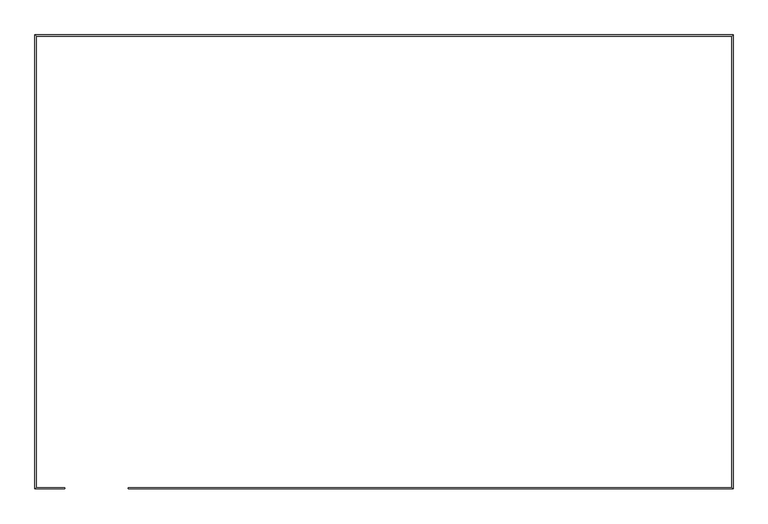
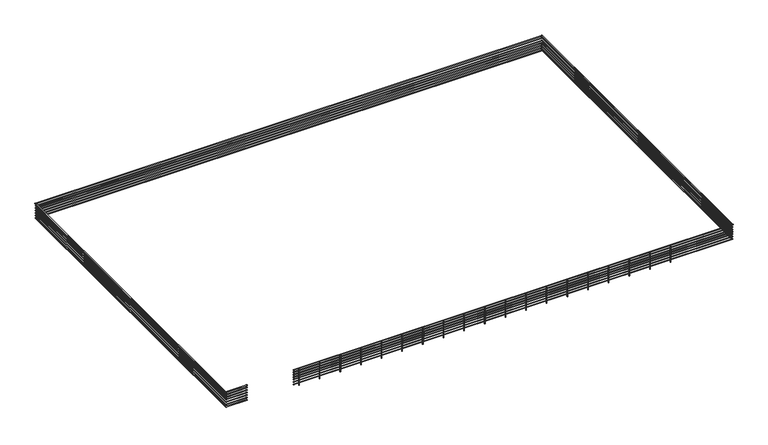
"""IFC4 building model written with IfcOpenShell, lengths in millimetres: railing geometry."""

import ifcopenshell
import ifcopenshell.guid

model = None  # the IFC model being written
_history = None  # IfcOwnerHistory: only IFC2X3 demands one
_inside = {}  # id of a spatial element -> (the spatial element, [elements in it])
_under = {}  # id of a project, library or spatial element -> (it, [spatial elements below it])
_declared = {}  # id of a project -> (the project, [libraries it declares])
_typed = {}  # id of a type object -> (the type object, [elements of that type])
_made_of = {}  # id of a material, layer set ... -> (it, [elements and type objects made of it])


def new_model(schema):
    """Start an empty IFC model of exactly this schema.

    Asked for "IFC4X3", IfcOpenShell would pick the latest addendum, in which some entities
    have other attributes; the version numbers below select the first issue.
    IFC2X3 requires an IfcOwnerHistory on every rooted entity: one is made here for all.
    """
    global model, _history
    if schema == "IFC4X3":
        model = ifcopenshell.file(schema_version=(4, 3, 0, 0))
    else:
        model = ifcopenshell.file(schema=schema)
    _inside.clear()
    _under.clear()
    _declared.clear()
    _typed.clear()
    _made_of.clear()
    _history = None
    if model.schema == "IFC2X3":
        org = make("IfcOrganization", Name="unknown")
        user = make(
            "IfcPersonAndOrganization",
            ThePerson=make("IfcPerson", FamilyName="unknown"),
            TheOrganization=org,
        )
        app = make(
            "IfcApplication",
            ApplicationDeveloper=org,
            Version="unknown",
            ApplicationFullName="unknown",
            ApplicationIdentifier="unknown",
        )
        _history = make(
            "IfcOwnerHistory",
            OwningUser=user,
            OwningApplication=app,
            ChangeAction="ADDED",
            CreationDate=0,
        )
    return model


def make(cls, **values):
    """One entity of the class cls with the attributes given. An attribute that is None is left unset."""
    return model.create_entity(
        cls, **{name: value for name, value in values.items() if value is not None}
    )


def rooted(cls, **values):
    """An entity with a GlobalId (a new one), such as an element, a storey or a relation."""
    return make(cls, GlobalId=ifcopenshell.guid.new(), OwnerHistory=_history, **values)


def si_unit(unit_type, name, prefix=None):
    """IfcSIUnit, for example si_unit("LENGTHUNIT", "METRE", prefix="MILLI")."""
    return make("IfcSIUnit", UnitType=unit_type, Prefix=prefix, Name=name)


def assignment(units):
    """IfcUnitAssignment: the units of a project."""
    return None if units is None else make("IfcUnitAssignment", Units=units)


def point(xyz):
    """IfcCartesianPoint."""
    return None if xyz is None else make("IfcCartesianPoint", Coordinates=xyz)


def direction(xyz):
    """IfcDirection."""
    return None if xyz is None else make("IfcDirection", DirectionRatios=xyz)


def frame(location, z_axis=None, x_axis=None):
    """IfcAxis2Placement3D, a coordinate frame: its origin and axes. An axis left out is left unset."""
    return make(
        "IfcAxis2Placement3D",
        Location=point(location),
        Axis=direction(z_axis),
        RefDirection=direction(x_axis),
    )


def frame_2d(location, x_axis=None):
    """IfcAxis2Placement2D, a coordinate frame in the plane: its origin and x axis."""
    return make(
        "IfcAxis2Placement2D", Location=point(location), RefDirection=direction(x_axis)
    )


def origin():
    """The frame at (0, 0, 0) with its axes left unset."""
    return frame((0.0, 0.0, 0.0))


def place(relative_to, where):
    """IfcLocalPlacement: puts the frame where relative to a parent placement (None: the world)."""
    return make(
        "IfcLocalPlacement", PlacementRelTo=relative_to, RelativePlacement=where
    )


def context(
    kind, dimensions, precision=None, world=None, true_north=None, identifier=None
):
    """IfcGeometricRepresentationContext, for example the 3D "Model" context."""
    return make(
        "IfcGeometricRepresentationContext",
        ContextIdentifier=identifier,
        ContextType=kind,
        CoordinateSpaceDimension=dimensions,
        Precision=precision,
        WorldCoordinateSystem=world,
        TrueNorth=true_north,
    )


def project(units=None, contexts=None):
    """IfcProject with its units and contexts."""
    return rooted(
        "IfcProject",
        Name="project",
        RepresentationContexts=contexts,
        UnitsInContext=assignment(units),
    )


def spatial(cls, under=None, at=None, **own):
    """A site, building, storey or space (cls), placed at a placement, below another one or the project."""
    s = rooted(cls, ObjectPlacement=at, **own)
    if under is not None:
        _under.setdefault(under.id(), (under, []))[1].append(s)
    return s


def circle_curve(where, radius):
    """IfcCircle in the frame where."""
    return make("IfcCircle", Position=where, Radius=radius)


def ellipse_curve(where, semi_axis1, semi_axis2):
    """IfcEllipse in the frame where."""
    return make(
        "IfcEllipse", Position=where, SemiAxis1=semi_axis1, SemiAxis2=semi_axis2
    )


def trimmed(basis, trim1, trim2, sense, master):
    """IfcTrimmedCurve: the piece of a basis curve between two trims."""
    return make(
        "IfcTrimmedCurve",
        BasisCurve=basis,
        Trim1=trim1,
        Trim2=trim2,
        SenseAgreement=sense,
        MasterRepresentation=master,
    )


def segment(curve, same_sense, transition):
    """IfcCompositeCurveSegment."""
    return make(
        "IfcCompositeCurveSegment",
        Transition=transition,
        SameSense=same_sense,
        ParentCurve=curve,
    )


def composite_curve(segments, self_intersect=None):
    """IfcCompositeCurve: segments joined end to end."""
    return make("IfcCompositeCurve", Segments=segments, SelfIntersect=self_intersect)


def outline(outer, holes=None, kind="AREA"):
    """IfcArbitraryClosedProfileDef: a profile drawn as a closed curve; with holes, ...WithVoids."""
    if holes is None:
        return make("IfcArbitraryClosedProfileDef", ProfileType=kind, OuterCurve=outer)
    return make(
        "IfcArbitraryProfileDefWithVoids",
        ProfileType=kind,
        OuterCurve=outer,
        InnerCurves=holes,
    )


def extrude(swept, where, along, depth):
    """IfcExtrudedAreaSolid: the profile swept, set in the frame where, extruded along a direction by depth."""
    return make(
        "IfcExtrudedAreaSolid",
        SweptArea=swept,
        Position=where,
        ExtrudedDirection=direction(along),
        Depth=depth,
    )


def shape(context_of_items, identifier, shape_type, items):
    """IfcShapeRepresentation: the items that make up one representation, for example the "Body"."""
    return make(
        "IfcShapeRepresentation",
        ContextOfItems=context_of_items,
        RepresentationIdentifier=identifier,
        RepresentationType=shape_type,
        Items=items,
    )


def source(mapping_origin, context_of_items, identifier, shape_type, items):
    """IfcRepresentationMap: a shape defined once, which mapped items show again and again."""
    return make(
        "IfcRepresentationMap",
        MappingOrigin=mapping_origin,
        MappedRepresentation=shape(context_of_items, identifier, shape_type, items),
    )


def transform(
    local_origin,
    x_axis=None,
    y_axis=None,
    z_axis=None,
    scale=None,
    scale2=None,
    scale3=None,
    uniform=True,
):
    """IfcCartesianTransformationOperator3D, or its non-uniform kind. x_axis, y_axis, z_axis: its Axis1, 2, 3."""
    if uniform:
        return make(
            "IfcCartesianTransformationOperator3D",
            Axis1=direction(x_axis),
            Axis2=direction(y_axis),
            LocalOrigin=point(local_origin),
            Scale=scale,
            Axis3=direction(z_axis),
        )
    return make(
        "IfcCartesianTransformationOperator3DnonUniform",
        Axis1=direction(x_axis),
        Axis2=direction(y_axis),
        LocalOrigin=point(local_origin),
        Scale=scale,
        Axis3=direction(z_axis),
        Scale2=scale2,
        Scale3=scale3,
    )


def mapped(mapping_source, mapping_target):
    """IfcMappedItem: shows the shape of a source again, moved by a transform."""
    return make(
        "IfcMappedItem", MappingSource=mapping_source, MappingTarget=mapping_target
    )


def made_of(thing, what):
    """Note that an element or type object is made of a material, layer set ...; save() writes the relation."""
    if what is not None:
        _made_of.setdefault(what.id(), (what, []))[1].append(thing)
    return thing


def element(
    cls,
    number,
    at=None,
    inside=None,
    cuts=None,
    type_object=None,
    material=None,
    context=None,
    identifier="Body",
    shape_type=None,
    held_by="IfcProductDefinitionShape",
    body=None,
    shapes=None,
    **own,
):
    """One element of the class cls, such as IfcWall. Its Tag is "e" and its number.

    at: its placement. inside: the storey or other place that contains it. cuts: it is an
    opening in that element (IfcRelVoidsElement). A single representation is given by context,
    identifier, shape_type and body (its items); several are given by shapes. held_by: the class
    of the entity that holds the representations. save() writes the other relations.
    """
    e = rooted(cls, Tag="e%d" % number, ObjectPlacement=at, **own)
    if body is not None:
        shapes = [shape(context, identifier, shape_type, body)]
    if shapes is not None:
        e.Representation = make(held_by, Representations=shapes)
    if inside is not None:
        _inside.setdefault(inside.id(), (inside, []))[1].append(e)
    if cuts is not None:
        rooted(
            "IfcRelVoidsElement", RelatingBuildingElement=cuts, RelatedOpeningElement=e
        )
    if type_object is not None:
        _typed.setdefault(type_object.id(), (type_object, []))[1].append(e)
    return made_of(e, material)


def aggregate(whole, parts):
    """IfcRelAggregates: a whole, such as a stair, and the parts it consists of."""
    return rooted("IfcRelAggregates", RelatingObject=whole, RelatedObjects=parts)


def save(model, path):
    """Write the relations noted so far, then the file.

    IfcRelAggregates (storeys below a building ...), IfcRelContainedInSpatialStructure (elements
    in a storey), IfcRelDefinesByType, IfcRelAssociatesMaterial and IfcRelDeclares: one each for
    every whole, place, type object, material and project.
    """
    for whole, parts in _under.values():
        aggregate(whole, parts)
    for where, things in _inside.values():
        rooted(
            "IfcRelContainedInSpatialStructure",
            RelatedElements=things,
            RelatingStructure=where,
        )
    for kind, things in _typed.values():
        rooted("IfcRelDefinesByType", RelatedObjects=things, RelatingType=kind)
    for what, things in _made_of.values():
        rooted("IfcRelAssociatesMaterial", RelatedObjects=things, RelatingMaterial=what)
    for by, libraries in _declared.values():
        rooted("IfcRelDeclares", RelatingContext=by, RelatedDefinitions=libraries)
    model.write(path)


def plane_surface(at):
    """IfcPlane: the flat surface through the origin of the frame at, square to its z axis."""
    return make("IfcPlane", Position=at)


def cylinder_surface(at, radius):
    """IfcCylindricalSurface: all points at the distance radius from the z axis of the frame at."""
    return make("IfcCylindricalSurface", Position=at, Radius=radius)


def advanced_brep(points, edges, surfaces, faces):
    """IfcAdvancedBrep: a solid bounded by faces that lie on surfaces and meet in shared edges.

    An edge is (start, end): straight between two places in points (the first is 0);
    or (start, end, curve); or (start, end, curve, False) where it runs against its curve.
    A face is (place in surfaces, loops), or (place, loops, False) where it looks against
    its surface's normal. A loop lists edges by number (the first is 1), with a minus sign
    where the edge is run from its end to its start. The first loop is the outer one.
    """
    corners = [point(p) for p in points]
    vertices = [make("IfcVertexPoint", VertexGeometry=c) for c in corners]
    made = []
    for start, end, *more in edges:
        made.append(
            make(
                "IfcEdgeCurve",
                EdgeStart=vertices[start],
                EdgeEnd=vertices[end],
                EdgeGeometry=more[0] if more else make("IfcPolyline", Points=[corners[start], corners[end]]),
                SameSense=more[1] if len(more) > 1 else True,
            )
        )
    hull = []
    for where, loops, *sense in faces:
        bounds = []
        for j, loop in enumerate(loops):
            ring = [make("IfcOrientedEdge", EdgeElement=made[abs(k) - 1], Orientation=k > 0) for k in loop]
            bounds.append(
                make(
                    "IfcFaceOuterBound" if j == 0 else "IfcFaceBound",
                    Bound=make("IfcEdgeLoop", EdgeList=ring),
                    Orientation=True,
                )
            )
        hull.append(make("IfcAdvancedFace", Bounds=bounds, FaceSurface=surfaces[where], SameSense=sense[0] if sense else True))
    return make("IfcAdvancedBrep", Outer=make("IfcClosedShell", CfsFaces=hull))


def railing_b7095c67(model_context):
    return source(origin(), model_context, "Body", "SolidModel", [
        advanced_brep(
        [(-5549.137978, -9104.0840399, 4880.0), (-5549.137978, -9064.0840399, 4880.0), (-6604.137978, -9104.0840399, 4880.0), (-6564.137978, -9064.0840399, 4880.0), (-6604.137978, 6885.9159601, 4880.0), (-6564.137978, 6845.9159601, 4880.0), (17985.862022, 6885.9159601, 4880.0), (17945.862022, 6845.9159601, 4880.0), (17985.862022, -9104.0840399, 4880.0), (17945.862022, -9064.0840399, 4880.0), (-3309.137978, -9104.0840399, 4880.0), (-3309.137978, -9064.0840399, 4880.0)],
        [
            (0, 1, circle_curve(frame((-5549.137978, -9084.0840399, 4880.0), z_axis=(1.0, 0.0, 0.0), x_axis=(0.0, 1.0, 0.0)), 20.0)),
            (1, 0, circle_curve(frame((-5549.137978, -9084.0840399, 4880.0), z_axis=(1.0, 0.0, 0.0), x_axis=(0.0, 1.0, 0.0)), 20.0)),
            (0, 2),
            (2, 3, ellipse_curve(frame((-6584.137978, -9084.0840399, 4880.0), z_axis=(0.7071067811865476, -0.7071067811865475, 0.0), x_axis=(0.7071067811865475, 0.7071067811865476, 0.0)), 28.2842712, 20.0)),
            (3, 1),
            (3, 2, ellipse_curve(frame((-6584.137978, -9084.0840399, 4880.0), z_axis=(0.7071067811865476, -0.7071067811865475, 0.0), x_axis=(0.7071067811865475, 0.7071067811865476, 0.0)), 28.2842712, 20.0)),
            (2, 4),
            (4, 5, ellipse_curve(frame((-6584.137978, 6865.9159601, 4880.0), z_axis=(-0.7071067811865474, -0.7071067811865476, 0.0), x_axis=(0.7071067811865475, -0.7071067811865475, 0.0)), 28.2842712, 20.0)),
            (5, 3),
            (5, 4, ellipse_curve(frame((-6584.137978, 6865.9159601, 4880.0), z_axis=(-0.7071067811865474, -0.7071067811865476, 0.0), x_axis=(0.7071067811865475, -0.7071067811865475, 0.0)), 28.2842712, 20.0)),
            (4, 6),
            (6, 7, ellipse_curve(frame((17965.862022, 6865.9159601, 4880.0), z_axis=(-0.7071067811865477, 0.7071067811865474, 0.0), x_axis=(-0.7071067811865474, -0.7071067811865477, 0.0)), 28.2842712, 20.0)),
            (7, 5),
            (7, 6, ellipse_curve(frame((17965.862022, 6865.9159601, 4880.0), z_axis=(-0.7071067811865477, 0.7071067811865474, 0.0), x_axis=(-0.7071067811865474, -0.7071067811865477, 0.0)), 28.2842712, 20.0)),
            (6, 8),
            (8, 9, ellipse_curve(frame((17965.862022, -9084.0840399, 4880.0), z_axis=(0.7071067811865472, 0.7071067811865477, 0.0), x_axis=(-0.7071067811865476, 0.7071067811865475, 0.0)), 28.2842712, 20.0)),
            (9, 7),
            (9, 8, ellipse_curve(frame((17965.862022, -9084.0840399, 4880.0), z_axis=(0.7071067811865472, 0.7071067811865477, 0.0), x_axis=(-0.7071067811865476, 0.7071067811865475, 0.0)), 28.2842712, 20.0)),
            (10, 11, circle_curve(frame((-3309.137978, -9084.0840399, 4880.0), z_axis=(-1.0, 0.0, 0.0), x_axis=(0.0, 1.0, 0.0)), 20.0)),
            (11, 10, circle_curve(frame((-3309.137978, -9084.0840399, 4880.0), z_axis=(-1.0, 0.0, 0.0), x_axis=(0.0, 1.0, 0.0)), 20.0)),
            (8, 10),
            (11, 9),
        ],
        [
            plane_surface(frame((-5549.137978, -9084.0840399, 4900.0), z_axis=(1.0, 0.0, 0.0), x_axis=(0.0, -1.0, 0.0))),
            cylinder_surface(frame((-5549.137978, -9084.0840399, 4880.0), z_axis=(1.0, 0.0, 0.0), x_axis=(0.0, 1.0, 0.0)), 20.0),
            cylinder_surface(frame((-6584.137978, -9084.0840399, 4880.0), z_axis=(0.0, -1.0, 0.0), x_axis=(1.0, 0.0, 0.0)), 20.0),
            cylinder_surface(frame((-6584.137978, 6865.9159601, 4880.0), z_axis=(-1.0, 0.0, 0.0), x_axis=(0.0, -1.0, 0.0)), 20.0),
            cylinder_surface(frame((17965.862022, 6865.9159601, 4880.0), z_axis=(0.0, 1.0, 0.0), x_axis=(-1.0, 0.0, 0.0)), 20.0),
            plane_surface(frame((-3309.137978, -9084.0840399, 4900.0), z_axis=(-1.0, 0.0, 0.0), x_axis=(0.0, -1.0, 0.0))),
            cylinder_surface(frame((17965.862022, -9084.0840399, 4880.0), z_axis=(1.0, 0.0, 0.0), x_axis=(0.0, 1.0, 0.0)), 20.0),
        ],
        [
            (0, [[1, 2]]),
            (1, [[-1, 3, 4, 5]]),
            (1, [[-2, -5, 6, -3]]),
            (2, [[-4, 7, 8, 9]]),
            (2, [[-6, -9, 10, -7]]),
            (3, [[-8, 11, 12, 13]]),
            (3, [[-10, -13, 14, -11]]),
            (4, [[-12, 15, 16, 17]]),
            (4, [[-14, -17, 18, -15]]),
            (5, [[19, 20]]),
            (6, [[-16, 21, -20, 22]]),
            (6, [[-18, -22, -19, -21]]),
        ],
    ),
        advanced_brep(
        [(-5549.137978, -9099.0840399, 4760.0), (-5549.137978, -9069.0840399, 4760.0), (-6599.137978, -9099.0840399, 4760.0), (-6569.137978, -9069.0840399, 4760.0), (-6599.137978, 6880.9159601, 4760.0), (-6569.137978, 6850.9159601, 4760.0), (17980.862022, 6880.9159601, 4760.0), (17950.862022, 6850.9159601, 4760.0), (17980.862022, -9099.0840399, 4760.0), (17950.862022, -9069.0840399, 4760.0), (-3309.137978, -9099.0840399, 4760.0), (-3309.137978, -9069.0840399, 4760.0)],
        [
            (0, 1, circle_curve(frame((-5549.137978, -9084.0840399, 4760.0), z_axis=(1.0, 0.0, 0.0), x_axis=(0.0, 1.0, 0.0)), 15.0)),
            (1, 0, circle_curve(frame((-5549.137978, -9084.0840399, 4760.0), z_axis=(1.0, 0.0, 0.0), x_axis=(0.0, 1.0, 0.0)), 15.0)),
            (0, 2),
            (2, 3, ellipse_curve(frame((-6584.137978, -9084.0840399, 4760.0), z_axis=(0.7071067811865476, -0.7071067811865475, 0.0), x_axis=(0.7071067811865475, 0.7071067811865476, 0.0)), 21.2132034, 15.0)),
            (3, 1),
            (3, 2, ellipse_curve(frame((-6584.137978, -9084.0840399, 4760.0), z_axis=(0.7071067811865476, -0.7071067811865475, 0.0), x_axis=(0.7071067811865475, 0.7071067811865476, 0.0)), 21.2132034, 15.0)),
            (2, 4),
            (4, 5, ellipse_curve(frame((-6584.137978, 6865.9159601, 4760.0), z_axis=(-0.7071067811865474, -0.7071067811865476, 0.0), x_axis=(0.7071067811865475, -0.7071067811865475, 0.0)), 21.2132034, 15.0)),
            (5, 3),
            (5, 4, ellipse_curve(frame((-6584.137978, 6865.9159601, 4760.0), z_axis=(-0.7071067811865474, -0.7071067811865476, 0.0), x_axis=(0.7071067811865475, -0.7071067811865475, 0.0)), 21.2132034, 15.0)),
            (4, 6),
            (6, 7, ellipse_curve(frame((17965.862022, 6865.9159601, 4760.0), z_axis=(-0.7071067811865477, 0.7071067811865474, 0.0), x_axis=(-0.7071067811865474, -0.7071067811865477, 0.0)), 21.2132034, 15.0)),
            (7, 5),
            (7, 6, ellipse_curve(frame((17965.862022, 6865.9159601, 4760.0), z_axis=(-0.7071067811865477, 0.7071067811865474, 0.0), x_axis=(-0.7071067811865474, -0.7071067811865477, 0.0)), 21.2132034, 15.0)),
            (6, 8),
            (8, 9, ellipse_curve(frame((17965.862022, -9084.0840399, 4760.0), z_axis=(0.7071067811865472, 0.7071067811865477, 0.0), x_axis=(-0.7071067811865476, 0.7071067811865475, 0.0)), 21.2132034, 15.0)),
            (9, 7),
            (9, 8, ellipse_curve(frame((17965.862022, -9084.0840399, 4760.0), z_axis=(0.7071067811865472, 0.7071067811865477, 0.0), x_axis=(-0.7071067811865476, 0.7071067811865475, 0.0)), 21.2132034, 15.0)),
            (10, 11, circle_curve(frame((-3309.137978, -9084.0840399, 4760.0), z_axis=(-1.0, 0.0, 0.0), x_axis=(0.0, 1.0, 0.0)), 15.0)),
            (11, 10, circle_curve(frame((-3309.137978, -9084.0840399, 4760.0), z_axis=(-1.0, 0.0, 0.0), x_axis=(0.0, 1.0, 0.0)), 15.0)),
            (8, 10),
            (11, 9),
        ],
        [
            plane_surface(frame((-5549.137978, -9084.0840399, 4775.0), z_axis=(1.0, 0.0, 0.0), x_axis=(0.0, -1.0, 0.0))),
            cylinder_surface(frame((-5549.137978, -9084.0840399, 4760.0), z_axis=(1.0, 0.0, 0.0), x_axis=(0.0, 1.0, 0.0)), 15.0),
            cylinder_surface(frame((-6584.137978, -9084.0840399, 4760.0), z_axis=(0.0, -1.0, 0.0), x_axis=(1.0, 0.0, 0.0)), 15.0),
            cylinder_surface(frame((-6584.137978, 6865.9159601, 4760.0), z_axis=(-1.0, 0.0, 0.0), x_axis=(0.0, -1.0, 0.0)), 15.0),
            cylinder_surface(frame((17965.862022, 6865.9159601, 4760.0), z_axis=(0.0, 1.0, 0.0), x_axis=(-1.0, 0.0, 0.0)), 15.0),
            plane_surface(frame((-3309.137978, -9084.0840399, 4775.0), z_axis=(-1.0, 0.0, 0.0), x_axis=(0.0, -1.0, 0.0))),
            cylinder_surface(frame((17965.862022, -9084.0840399, 4760.0), z_axis=(1.0, 0.0, 0.0), x_axis=(0.0, 1.0, 0.0)), 15.0),
        ],
        [
            (0, [[1, 2]]),
            (1, [[-1, 3, 4, 5]]),
            (1, [[-2, -5, 6, -3]]),
            (2, [[-4, 7, 8, 9]]),
            (2, [[-6, -9, 10, -7]]),
            (3, [[-8, 11, 12, 13]]),
            (3, [[-10, -13, 14, -11]]),
            (4, [[-12, 15, 16, 17]]),
            (4, [[-14, -17, 18, -15]]),
            (5, [[19, 20]]),
            (6, [[-16, 21, -20, 22]]),
            (6, [[-18, -22, -19, -21]]),
        ],
    ),
        advanced_brep(
        [(-5549.137978, -9099.0840399, 4635.0), (-5549.137978, -9069.0840399, 4635.0), (-6599.137978, -9099.0840399, 4635.0), (-6569.137978, -9069.0840399, 4635.0), (-6599.137978, 6880.9159601, 4635.0), (-6569.137978, 6850.9159601, 4635.0), (17980.862022, 6880.9159601, 4635.0), (17950.862022, 6850.9159601, 4635.0), (17980.862022, -9099.0840399, 4635.0), (17950.862022, -9069.0840399, 4635.0), (-3309.137978, -9099.0840399, 4635.0), (-3309.137978, -9069.0840399, 4635.0)],
        [
            (0, 1, circle_curve(frame((-5549.137978, -9084.0840399, 4635.0), z_axis=(1.0, 0.0, 0.0), x_axis=(0.0, 1.0, 0.0)), 15.0)),
            (1, 0, circle_curve(frame((-5549.137978, -9084.0840399, 4635.0), z_axis=(1.0, 0.0, 0.0), x_axis=(0.0, 1.0, 0.0)), 15.0)),
            (0, 2),
            (2, 3, ellipse_curve(frame((-6584.137978, -9084.0840399, 4635.0), z_axis=(0.7071067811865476, -0.7071067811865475, 0.0), x_axis=(0.7071067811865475, 0.7071067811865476, 0.0)), 21.2132034, 15.0)),
            (3, 1),
            (3, 2, ellipse_curve(frame((-6584.137978, -9084.0840399, 4635.0), z_axis=(0.7071067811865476, -0.7071067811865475, 0.0), x_axis=(0.7071067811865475, 0.7071067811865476, 0.0)), 21.2132034, 15.0)),
            (2, 4),
            (4, 5, ellipse_curve(frame((-6584.137978, 6865.9159601, 4635.0), z_axis=(-0.7071067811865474, -0.7071067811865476, 0.0), x_axis=(0.7071067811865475, -0.7071067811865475, 0.0)), 21.2132034, 15.0)),
            (5, 3),
            (5, 4, ellipse_curve(frame((-6584.137978, 6865.9159601, 4635.0), z_axis=(-0.7071067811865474, -0.7071067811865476, 0.0), x_axis=(0.7071067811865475, -0.7071067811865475, 0.0)), 21.2132034, 15.0)),
            (4, 6),
            (6, 7, ellipse_curve(frame((17965.862022, 6865.9159601, 4635.0), z_axis=(-0.7071067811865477, 0.7071067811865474, 0.0), x_axis=(-0.7071067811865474, -0.7071067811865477, 0.0)), 21.2132034, 15.0)),
            (7, 5),
            (7, 6, ellipse_curve(frame((17965.862022, 6865.9159601, 4635.0), z_axis=(-0.7071067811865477, 0.7071067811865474, 0.0), x_axis=(-0.7071067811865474, -0.7071067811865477, 0.0)), 21.2132034, 15.0)),
            (6, 8),
            (8, 9, ellipse_curve(frame((17965.862022, -9084.0840399, 4635.0), z_axis=(0.7071067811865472, 0.7071067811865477, 0.0), x_axis=(-0.7071067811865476, 0.7071067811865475, 0.0)), 21.2132034, 15.0)),
            (9, 7),
            (9, 8, ellipse_curve(frame((17965.862022, -9084.0840399, 4635.0), z_axis=(0.7071067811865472, 0.7071067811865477, 0.0), x_axis=(-0.7071067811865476, 0.7071067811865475, 0.0)), 21.2132034, 15.0)),
            (10, 11, circle_curve(frame((-3309.137978, -9084.0840399, 4635.0), z_axis=(-1.0, 0.0, 0.0), x_axis=(0.0, 1.0, 0.0)), 15.0)),
            (11, 10, circle_curve(frame((-3309.137978, -9084.0840399, 4635.0), z_axis=(-1.0, 0.0, 0.0), x_axis=(0.0, 1.0, 0.0)), 15.0)),
            (8, 10),
            (11, 9),
        ],
        [
            plane_surface(frame((-5549.137978, -9084.0840399, 4650.0), z_axis=(1.0, 0.0, 0.0), x_axis=(0.0, -1.0, 0.0))),
            cylinder_surface(frame((-5549.137978, -9084.0840399, 4635.0), z_axis=(1.0, 0.0, 0.0), x_axis=(0.0, 1.0, 0.0)), 15.0),
            cylinder_surface(frame((-6584.137978, -9084.0840399, 4635.0), z_axis=(0.0, -1.0, 0.0), x_axis=(1.0, 0.0, 0.0)), 15.0),
            cylinder_surface(frame((-6584.137978, 6865.9159601, 4635.0), z_axis=(-1.0, 0.0, 0.0), x_axis=(0.0, -1.0, 0.0)), 15.0),
            cylinder_surface(frame((17965.862022, 6865.9159601, 4635.0), z_axis=(0.0, 1.0, 0.0), x_axis=(-1.0, 0.0, 0.0)), 15.0),
            plane_surface(frame((-3309.137978, -9084.0840399, 4650.0), z_axis=(-1.0, 0.0, 0.0), x_axis=(0.0, -1.0, 0.0))),
            cylinder_surface(frame((17965.862022, -9084.0840399, 4635.0), z_axis=(1.0, 0.0, 0.0), x_axis=(0.0, 1.0, 0.0)), 15.0),
        ],
        [
            (0, [[1, 2]]),
            (1, [[-1, 3, 4, 5]]),
            (1, [[-2, -5, 6, -3]]),
            (2, [[-4, 7, 8, 9]]),
            (2, [[-6, -9, 10, -7]]),
            (3, [[-8, 11, 12, 13]]),
            (3, [[-10, -13, 14, -11]]),
            (4, [[-12, 15, 16, 17]]),
            (4, [[-14, -17, 18, -15]]),
            (5, [[19, 20]]),
            (6, [[-16, 21, -20, 22]]),
            (6, [[-18, -22, -19, -21]]),
        ],
    ),
        advanced_brep(
        [(-5549.137978, -9099.0840399, 4510.0), (-5549.137978, -9069.0840399, 4510.0), (-6599.137978, -9099.0840399, 4510.0), (-6569.137978, -9069.0840399, 4510.0), (-6599.137978, 6880.9159601, 4510.0), (-6569.137978, 6850.9159601, 4510.0), (17980.862022, 6880.9159601, 4510.0), (17950.862022, 6850.9159601, 4510.0), (17980.862022, -9099.0840399, 4510.0), (17950.862022, -9069.0840399, 4510.0), (-3309.137978, -9099.0840399, 4510.0), (-3309.137978, -9069.0840399, 4510.0)],
        [
            (0, 1, circle_curve(frame((-5549.137978, -9084.0840399, 4510.0), z_axis=(1.0, 0.0, 0.0), x_axis=(0.0, 1.0, 0.0)), 15.0)),
            (1, 0, circle_curve(frame((-5549.137978, -9084.0840399, 4510.0), z_axis=(1.0, 0.0, 0.0), x_axis=(0.0, 1.0, 0.0)), 15.0)),
            (0, 2),
            (2, 3, ellipse_curve(frame((-6584.137978, -9084.0840399, 4510.0), z_axis=(0.7071067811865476, -0.7071067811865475, 0.0), x_axis=(0.7071067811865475, 0.7071067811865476, 0.0)), 21.2132034, 15.0)),
            (3, 1),
            (3, 2, ellipse_curve(frame((-6584.137978, -9084.0840399, 4510.0), z_axis=(0.7071067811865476, -0.7071067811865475, 0.0), x_axis=(0.7071067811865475, 0.7071067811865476, 0.0)), 21.2132034, 15.0)),
            (2, 4),
            (4, 5, ellipse_curve(frame((-6584.137978, 6865.9159601, 4510.0), z_axis=(-0.7071067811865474, -0.7071067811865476, 0.0), x_axis=(0.7071067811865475, -0.7071067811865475, 0.0)), 21.2132034, 15.0)),
            (5, 3),
            (5, 4, ellipse_curve(frame((-6584.137978, 6865.9159601, 4510.0), z_axis=(-0.7071067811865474, -0.7071067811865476, 0.0), x_axis=(0.7071067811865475, -0.7071067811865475, 0.0)), 21.2132034, 15.0)),
            (4, 6),
            (6, 7, ellipse_curve(frame((17965.862022, 6865.9159601, 4510.0), z_axis=(-0.7071067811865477, 0.7071067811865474, 0.0), x_axis=(-0.7071067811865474, -0.7071067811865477, 0.0)), 21.2132034, 15.0)),
            (7, 5),
            (7, 6, ellipse_curve(frame((17965.862022, 6865.9159601, 4510.0), z_axis=(-0.7071067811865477, 0.7071067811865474, 0.0), x_axis=(-0.7071067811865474, -0.7071067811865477, 0.0)), 21.2132034, 15.0)),
            (6, 8),
            (8, 9, ellipse_curve(frame((17965.862022, -9084.0840399, 4510.0), z_axis=(0.7071067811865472, 0.7071067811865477, 0.0), x_axis=(-0.7071067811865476, 0.7071067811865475, 0.0)), 21.2132034, 15.0)),
            (9, 7),
            (9, 8, ellipse_curve(frame((17965.862022, -9084.0840399, 4510.0), z_axis=(0.7071067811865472, 0.7071067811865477, 0.0), x_axis=(-0.7071067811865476, 0.7071067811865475, 0.0)), 21.2132034, 15.0)),
            (10, 11, circle_curve(frame((-3309.137978, -9084.0840399, 4510.0), z_axis=(-1.0, 0.0, 0.0), x_axis=(0.0, 1.0, 0.0)), 15.0)),
            (11, 10, circle_curve(frame((-3309.137978, -9084.0840399, 4510.0), z_axis=(-1.0, 0.0, 0.0), x_axis=(0.0, 1.0, 0.0)), 15.0)),
            (8, 10),
            (11, 9),
        ],
        [
            plane_surface(frame((-5549.137978, -9084.0840399, 4525.0), z_axis=(1.0, 0.0, 0.0), x_axis=(0.0, -1.0, 0.0))),
            cylinder_surface(frame((-5549.137978, -9084.0840399, 4510.0), z_axis=(1.0, 0.0, 0.0), x_axis=(0.0, 1.0, 0.0)), 15.0),
            cylinder_surface(frame((-6584.137978, -9084.0840399, 4510.0), z_axis=(0.0, -1.0, 0.0), x_axis=(1.0, 0.0, 0.0)), 15.0),
            cylinder_surface(frame((-6584.137978, 6865.9159601, 4510.0), z_axis=(-1.0, 0.0, 0.0), x_axis=(0.0, -1.0, 0.0)), 15.0),
            cylinder_surface(frame((17965.862022, 6865.9159601, 4510.0), z_axis=(0.0, 1.0, 0.0), x_axis=(-1.0, 0.0, 0.0)), 15.0),
            plane_surface(frame((-3309.137978, -9084.0840399, 4525.0), z_axis=(-1.0, 0.0, 0.0), x_axis=(0.0, -1.0, 0.0))),
            cylinder_surface(frame((17965.862022, -9084.0840399, 4510.0), z_axis=(1.0, 0.0, 0.0), x_axis=(0.0, 1.0, 0.0)), 15.0),
        ],
        [
            (0, [[1, 2]]),
            (1, [[-1, 3, 4, 5]]),
            (1, [[-2, -5, 6, -3]]),
            (2, [[-4, 7, 8, 9]]),
            (2, [[-6, -9, 10, -7]]),
            (3, [[-8, 11, 12, 13]]),
            (3, [[-10, -13, 14, -11]]),
            (4, [[-12, 15, 16, 17]]),
            (4, [[-14, -17, 18, -15]]),
            (5, [[19, 20]]),
            (6, [[-16, 21, -20, 22]]),
            (6, [[-18, -22, -19, -21]]),
        ],
    ),
        advanced_brep(
        [(-5549.137978, -9099.0840399, 4385.0), (-5549.137978, -9069.0840399, 4385.0), (-6599.137978, -9099.0840399, 4385.0), (-6569.137978, -9069.0840399, 4385.0), (-6599.137978, 6880.9159601, 4385.0), (-6569.137978, 6850.9159601, 4385.0), (17980.862022, 6880.9159601, 4385.0), (17950.862022, 6850.9159601, 4385.0), (17980.862022, -9099.0840399, 4385.0), (17950.862022, -9069.0840399, 4385.0), (-3309.137978, -9099.0840399, 4385.0), (-3309.137978, -9069.0840399, 4385.0)],
        [
            (0, 1, circle_curve(frame((-5549.137978, -9084.0840399, 4385.0), z_axis=(1.0, 0.0, 0.0), x_axis=(0.0, 1.0, 0.0)), 15.0)),
            (1, 0, circle_curve(frame((-5549.137978, -9084.0840399, 4385.0), z_axis=(1.0, 0.0, 0.0), x_axis=(0.0, 1.0, 0.0)), 15.0)),
            (0, 2),
            (2, 3, ellipse_curve(frame((-6584.137978, -9084.0840399, 4385.0), z_axis=(0.7071067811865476, -0.7071067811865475, 0.0), x_axis=(0.7071067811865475, 0.7071067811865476, 0.0)), 21.2132034, 15.0)),
            (3, 1),
            (3, 2, ellipse_curve(frame((-6584.137978, -9084.0840399, 4385.0), z_axis=(0.7071067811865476, -0.7071067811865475, 0.0), x_axis=(0.7071067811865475, 0.7071067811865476, 0.0)), 21.2132034, 15.0)),
            (2, 4),
            (4, 5, ellipse_curve(frame((-6584.137978, 6865.9159601, 4385.0), z_axis=(-0.7071067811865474, -0.7071067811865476, 0.0), x_axis=(0.7071067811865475, -0.7071067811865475, 0.0)), 21.2132034, 15.0)),
            (5, 3),
            (5, 4, ellipse_curve(frame((-6584.137978, 6865.9159601, 4385.0), z_axis=(-0.7071067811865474, -0.7071067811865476, 0.0), x_axis=(0.7071067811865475, -0.7071067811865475, 0.0)), 21.2132034, 15.0)),
            (4, 6),
            (6, 7, ellipse_curve(frame((17965.862022, 6865.9159601, 4385.0), z_axis=(-0.7071067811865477, 0.7071067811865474, 0.0), x_axis=(-0.7071067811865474, -0.7071067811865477, 0.0)), 21.2132034, 15.0)),
            (7, 5),
            (7, 6, ellipse_curve(frame((17965.862022, 6865.9159601, 4385.0), z_axis=(-0.7071067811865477, 0.7071067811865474, 0.0), x_axis=(-0.7071067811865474, -0.7071067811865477, 0.0)), 21.2132034, 15.0)),
            (6, 8),
            (8, 9, ellipse_curve(frame((17965.862022, -9084.0840399, 4385.0), z_axis=(0.7071067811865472, 0.7071067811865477, 0.0), x_axis=(-0.7071067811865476, 0.7071067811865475, 0.0)), 21.2132034, 15.0)),
            (9, 7),
            (9, 8, ellipse_curve(frame((17965.862022, -9084.0840399, 4385.0), z_axis=(0.7071067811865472, 0.7071067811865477, 0.0), x_axis=(-0.7071067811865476, 0.7071067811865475, 0.0)), 21.2132034, 15.0)),
            (10, 11, circle_curve(frame((-3309.137978, -9084.0840399, 4385.0), z_axis=(-1.0, 0.0, 0.0), x_axis=(0.0, 1.0, 0.0)), 15.0)),
            (11, 10, circle_curve(frame((-3309.137978, -9084.0840399, 4385.0), z_axis=(-1.0, 0.0, 0.0), x_axis=(0.0, 1.0, 0.0)), 15.0)),
            (8, 10),
            (11, 9),
        ],
        [
            plane_surface(frame((-5549.137978, -9084.0840399, 4400.0), z_axis=(1.0, 0.0, 0.0), x_axis=(0.0, -1.0, 0.0))),
            cylinder_surface(frame((-5549.137978, -9084.0840399, 4385.0), z_axis=(1.0, 0.0, 0.0), x_axis=(0.0, 1.0, 0.0)), 15.0),
            cylinder_surface(frame((-6584.137978, -9084.0840399, 4385.0), z_axis=(0.0, -1.0, 0.0), x_axis=(1.0, 0.0, 0.0)), 15.0),
            cylinder_surface(frame((-6584.137978, 6865.9159601, 4385.0), z_axis=(-1.0, 0.0, 0.0), x_axis=(0.0, -1.0, 0.0)), 15.0),
            cylinder_surface(frame((17965.862022, 6865.9159601, 4385.0), z_axis=(0.0, 1.0, 0.0), x_axis=(-1.0, 0.0, 0.0)), 15.0),
            plane_surface(frame((-3309.137978, -9084.0840399, 4400.0), z_axis=(-1.0, 0.0, 0.0), x_axis=(0.0, -1.0, 0.0))),
            cylinder_surface(frame((17965.862022, -9084.0840399, 4385.0), z_axis=(1.0, 0.0, 0.0), x_axis=(0.0, 1.0, 0.0)), 15.0),
        ],
        [
            (0, [[1, 2]]),
            (1, [[-1, 3, 4, 5]]),
            (1, [[-2, -5, 6, -3]]),
            (2, [[-4, 7, 8, 9]]),
            (2, [[-6, -9, 10, -7]]),
            (3, [[-8, 11, 12, 13]]),
            (3, [[-10, -13, 14, -11]]),
            (4, [[-12, 15, 16, 17]]),
            (4, [[-14, -17, 18, -15]]),
            (5, [[19, 20]]),
            (6, [[-16, 21, -20, 22]]),
            (6, [[-18, -22, -19, -21]]),
        ],
    ),
        advanced_brep(
        [(-5549.137978, -9099.0840399, 4260.0), (-5549.137978, -9069.0840399, 4260.0), (-6599.137978, -9099.0840399, 4260.0), (-6569.137978, -9069.0840399, 4260.0), (-6599.137978, 6880.9159601, 4260.0), (-6569.137978, 6850.9159601, 4260.0), (17980.862022, 6880.9159601, 4260.0), (17950.862022, 6850.9159601, 4260.0), (17980.862022, -9099.0840399, 4260.0), (17950.862022, -9069.0840399, 4260.0), (-3309.137978, -9099.0840399, 4260.0), (-3309.137978, -9069.0840399, 4260.0)],
        [
            (0, 1, circle_curve(frame((-5549.137978, -9084.0840399, 4260.0), z_axis=(1.0, 0.0, 0.0), x_axis=(0.0, 1.0, 0.0)), 15.0)),
            (1, 0, circle_curve(frame((-5549.137978, -9084.0840399, 4260.0), z_axis=(1.0, 0.0, 0.0), x_axis=(0.0, 1.0, 0.0)), 15.0)),
            (0, 2),
            (2, 3, ellipse_curve(frame((-6584.137978, -9084.0840399, 4260.0), z_axis=(0.7071067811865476, -0.7071067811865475, 0.0), x_axis=(0.7071067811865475, 0.7071067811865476, 0.0)), 21.2132034, 15.0)),
            (3, 1),
            (3, 2, ellipse_curve(frame((-6584.137978, -9084.0840399, 4260.0), z_axis=(0.7071067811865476, -0.7071067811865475, 0.0), x_axis=(0.7071067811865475, 0.7071067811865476, 0.0)), 21.2132034, 15.0)),
            (2, 4),
            (4, 5, ellipse_curve(frame((-6584.137978, 6865.9159601, 4260.0), z_axis=(-0.7071067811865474, -0.7071067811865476, 0.0), x_axis=(0.7071067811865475, -0.7071067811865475, 0.0)), 21.2132034, 15.0)),
            (5, 3),
            (5, 4, ellipse_curve(frame((-6584.137978, 6865.9159601, 4260.0), z_axis=(-0.7071067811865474, -0.7071067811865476, 0.0), x_axis=(0.7071067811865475, -0.7071067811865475, 0.0)), 21.2132034, 15.0)),
            (4, 6),
            (6, 7, ellipse_curve(frame((17965.862022, 6865.9159601, 4260.0), z_axis=(-0.7071067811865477, 0.7071067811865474, 0.0), x_axis=(-0.7071067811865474, -0.7071067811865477, 0.0)), 21.2132034, 15.0)),
            (7, 5),
            (7, 6, ellipse_curve(frame((17965.862022, 6865.9159601, 4260.0), z_axis=(-0.7071067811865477, 0.7071067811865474, 0.0), x_axis=(-0.7071067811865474, -0.7071067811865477, 0.0)), 21.2132034, 15.0)),
            (6, 8),
            (8, 9, ellipse_curve(frame((17965.862022, -9084.0840399, 4260.0), z_axis=(0.7071067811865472, 0.7071067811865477, 0.0), x_axis=(-0.7071067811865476, 0.7071067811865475, 0.0)), 21.2132034, 15.0)),
            (9, 7),
            (9, 8, ellipse_curve(frame((17965.862022, -9084.0840399, 4260.0), z_axis=(0.7071067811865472, 0.7071067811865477, 0.0), x_axis=(-0.7071067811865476, 0.7071067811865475, 0.0)), 21.2132034, 15.0)),
            (10, 11, circle_curve(frame((-3309.137978, -9084.0840399, 4260.0), z_axis=(-1.0, 0.0, 0.0), x_axis=(0.0, 1.0, 0.0)), 15.0)),
            (11, 10, circle_curve(frame((-3309.137978, -9084.0840399, 4260.0), z_axis=(-1.0, 0.0, 0.0), x_axis=(0.0, 1.0, 0.0)), 15.0)),
            (8, 10),
            (11, 9),
        ],
        [
            plane_surface(frame((-5549.137978, -9084.0840399, 4275.0), z_axis=(1.0, 0.0, 0.0), x_axis=(0.0, -1.0, 0.0))),
            cylinder_surface(frame((-5549.137978, -9084.0840399, 4260.0), z_axis=(1.0, 0.0, 0.0), x_axis=(0.0, 1.0, 0.0)), 15.0),
            cylinder_surface(frame((-6584.137978, -9084.0840399, 4260.0), z_axis=(0.0, -1.0, 0.0), x_axis=(1.0, 0.0, 0.0)), 15.0),
            cylinder_surface(frame((-6584.137978, 6865.9159601, 4260.0), z_axis=(-1.0, 0.0, 0.0), x_axis=(0.0, -1.0, 0.0)), 15.0),
            cylinder_surface(frame((17965.862022, 6865.9159601, 4260.0), z_axis=(0.0, 1.0, 0.0), x_axis=(-1.0, 0.0, 0.0)), 15.0),
            plane_surface(frame((-3309.137978, -9084.0840399, 4275.0), z_axis=(-1.0, 0.0, 0.0), x_axis=(0.0, -1.0, 0.0))),
            cylinder_surface(frame((17965.862022, -9084.0840399, 4260.0), z_axis=(1.0, 0.0, 0.0), x_axis=(0.0, 1.0, 0.0)), 15.0),
        ],
        [
            (0, [[1, 2]]),
            (1, [[-1, 3, 4, 5]]),
            (1, [[-2, -5, 6, -3]]),
            (2, [[-4, 7, 8, 9]]),
            (2, [[-6, -9, 10, -7]]),
            (3, [[-8, 11, 12, 13]]),
            (3, [[-10, -13, 14, -11]]),
            (4, [[-12, 15, 16, 17]]),
            (4, [[-14, -17, 18, -15]]),
            (5, [[19, 20]]),
            (6, [[-16, 21, -20, 22]]),
            (6, [[-18, -22, -19, -21]]),
        ],
    ),
        advanced_brep(
        [(-5549.137978, -9099.0840399, 4135.0), (-5549.137978, -9069.0840399, 4135.0), (-6599.137978, -9099.0840399, 4135.0), (-6569.137978, -9069.0840399, 4135.0), (-6599.137978, 6880.9159601, 4135.0), (-6569.137978, 6850.9159601, 4135.0), (17980.862022, 6880.9159601, 4135.0), (17950.862022, 6850.9159601, 4135.0), (17980.862022, -9099.0840399, 4135.0), (17950.862022, -9069.0840399, 4135.0), (-3309.137978, -9099.0840399, 4135.0), (-3309.137978, -9069.0840399, 4135.0)],
        [
            (0, 1, circle_curve(frame((-5549.137978, -9084.0840399, 4135.0), z_axis=(1.0, 0.0, 0.0), x_axis=(0.0, 1.0, 0.0)), 15.0)),
            (1, 0, circle_curve(frame((-5549.137978, -9084.0840399, 4135.0), z_axis=(1.0, 0.0, 0.0), x_axis=(0.0, 1.0, 0.0)), 15.0)),
            (0, 2),
            (2, 3, ellipse_curve(frame((-6584.137978, -9084.0840399, 4135.0), z_axis=(0.7071067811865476, -0.7071067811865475, 0.0), x_axis=(0.7071067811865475, 0.7071067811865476, 0.0)), 21.2132034, 15.0)),
            (3, 1),
            (3, 2, ellipse_curve(frame((-6584.137978, -9084.0840399, 4135.0), z_axis=(0.7071067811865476, -0.7071067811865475, 0.0), x_axis=(0.7071067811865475, 0.7071067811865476, 0.0)), 21.2132034, 15.0)),
            (2, 4),
            (4, 5, ellipse_curve(frame((-6584.137978, 6865.9159601, 4135.0), z_axis=(-0.7071067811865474, -0.7071067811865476, 0.0), x_axis=(0.7071067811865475, -0.7071067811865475, 0.0)), 21.2132034, 15.0)),
            (5, 3),
            (5, 4, ellipse_curve(frame((-6584.137978, 6865.9159601, 4135.0), z_axis=(-0.7071067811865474, -0.7071067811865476, 0.0), x_axis=(0.7071067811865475, -0.7071067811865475, 0.0)), 21.2132034, 15.0)),
            (4, 6),
            (6, 7, ellipse_curve(frame((17965.862022, 6865.9159601, 4135.0), z_axis=(-0.7071067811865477, 0.7071067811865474, 0.0), x_axis=(-0.7071067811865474, -0.7071067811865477, 0.0)), 21.2132034, 15.0)),
            (7, 5),
            (7, 6, ellipse_curve(frame((17965.862022, 6865.9159601, 4135.0), z_axis=(-0.7071067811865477, 0.7071067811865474, 0.0), x_axis=(-0.7071067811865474, -0.7071067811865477, 0.0)), 21.2132034, 15.0)),
            (6, 8),
            (8, 9, ellipse_curve(frame((17965.862022, -9084.0840399, 4135.0), z_axis=(0.7071067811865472, 0.7071067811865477, 0.0), x_axis=(-0.7071067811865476, 0.7071067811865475, 0.0)), 21.2132034, 15.0)),
            (9, 7),
            (9, 8, ellipse_curve(frame((17965.862022, -9084.0840399, 4135.0), z_axis=(0.7071067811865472, 0.7071067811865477, 0.0), x_axis=(-0.7071067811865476, 0.7071067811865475, 0.0)), 21.2132034, 15.0)),
            (10, 11, circle_curve(frame((-3309.137978, -9084.0840399, 4135.0), z_axis=(-1.0, 0.0, 0.0), x_axis=(0.0, 1.0, 0.0)), 15.0)),
            (11, 10, circle_curve(frame((-3309.137978, -9084.0840399, 4135.0), z_axis=(-1.0, 0.0, 0.0), x_axis=(0.0, 1.0, 0.0)), 15.0)),
            (8, 10),
            (11, 9),
        ],
        [
            plane_surface(frame((-5549.137978, -9084.0840399, 4150.0), z_axis=(1.0, 0.0, 0.0), x_axis=(0.0, -1.0, 0.0))),
            cylinder_surface(frame((-5549.137978, -9084.0840399, 4135.0), z_axis=(1.0, 0.0, 0.0), x_axis=(0.0, 1.0, 0.0)), 15.0),
            cylinder_surface(frame((-6584.137978, -9084.0840399, 4135.0), z_axis=(0.0, -1.0, 0.0), x_axis=(1.0, 0.0, 0.0)), 15.0),
            cylinder_surface(frame((-6584.137978, 6865.9159601, 4135.0), z_axis=(-1.0, 0.0, 0.0), x_axis=(0.0, -1.0, 0.0)), 15.0),
            cylinder_surface(frame((17965.862022, 6865.9159601, 4135.0), z_axis=(0.0, 1.0, 0.0), x_axis=(-1.0, 0.0, 0.0)), 15.0),
            plane_surface(frame((-3309.137978, -9084.0840399, 4150.0), z_axis=(-1.0, 0.0, 0.0), x_axis=(0.0, -1.0, 0.0))),
            cylinder_surface(frame((17965.862022, -9084.0840399, 4135.0), z_axis=(1.0, 0.0, 0.0), x_axis=(0.0, 1.0, 0.0)), 15.0),
        ],
        [
            (0, [[1, 2]]),
            (1, [[-1, 3, 4, 5]]),
            (1, [[-2, -5, 6, -3]]),
            (2, [[-4, 7, 8, 9]]),
            (2, [[-6, -9, 10, -7]]),
            (3, [[-8, 11, 12, 13]]),
            (3, [[-10, -13, 14, -11]]),
            (4, [[-12, 15, 16, 17]]),
            (4, [[-14, -17, 18, -15]]),
            (5, [[19, 20]]),
            (6, [[-16, 21, -20, 22]]),
            (6, [[-18, -22, -19, -21]]),
        ],
    ),
        extrude(outline(composite_curve([segment(trimmed(circle_curve(frame_2d((-3034.137978, -9084.0840399)), 12.5), [point((-3034.137978, -9096.5840399))], [point((-3034.137978, -9071.5840399))], False, "CARTESIAN"), True, "CONTINUOUS"), segment(trimmed(circle_curve(frame_2d((-3034.137978, -9084.0840399)), 12.5), [point((-3034.137978, -9071.5840399))], [point((-3034.137978, -9096.5840399))], False, "CARTESIAN"), True, "CONTINUOUS")], self_intersect=False)), frame((0.0, 0.0, 4000.0), z_axis=(0.0, 0.0, 1.0), x_axis=(1.0, 0.0, 0.0)), (0.0, 0.0, 1.0), 860.0),
        extrude(outline(composite_curve([segment(trimmed(circle_curve(frame_2d((-2034.137978, -9084.0840399)), 12.5), [point((-2034.137978, -9096.5840399))], [point((-2034.137978, -9071.5840399))], False, "CARTESIAN"), True, "CONTINUOUS"), segment(trimmed(circle_curve(frame_2d((-2034.137978, -9084.0840399)), 12.5), [point((-2034.137978, -9071.5840399))], [point((-2034.137978, -9096.5840399))], False, "CARTESIAN"), True, "CONTINUOUS")], self_intersect=False)), frame((0.0, 0.0, 4000.0), z_axis=(0.0, 0.0, 1.0), x_axis=(1.0, 0.0, 0.0)), (0.0, 0.0, 1.0), 860.0),
        extrude(outline(composite_curve([segment(trimmed(circle_curve(frame_2d((-1034.137978, -9084.0840399)), 12.5), [point((-1034.137978, -9096.5840399))], [point((-1034.137978, -9071.5840399))], False, "CARTESIAN"), True, "CONTINUOUS"), segment(trimmed(circle_curve(frame_2d((-1034.137978, -9084.0840399)), 12.5), [point((-1034.137978, -9071.5840399))], [point((-1034.137978, -9096.5840399))], False, "CARTESIAN"), True, "CONTINUOUS")], self_intersect=False)), frame((0.0, 0.0, 4000.0), z_axis=(0.0, 0.0, 1.0), x_axis=(1.0, 0.0, 0.0)), (0.0, 0.0, 1.0), 860.0),
        extrude(outline(composite_curve([segment(trimmed(circle_curve(frame_2d((-34.137978, -9084.0840399)), 12.5), [point((-34.137978, -9096.5840399))], [point((-34.137978, -9071.5840399))], False, "CARTESIAN"), True, "CONTINUOUS"), segment(trimmed(circle_curve(frame_2d((-34.137978, -9084.0840399)), 12.5), [point((-34.137978, -9071.5840399))], [point((-34.137978, -9096.5840399))], False, "CARTESIAN"), True, "CONTINUOUS")], self_intersect=False)), frame((0.0, 0.0, 4000.0), z_axis=(0.0, 0.0, 1.0), x_axis=(1.0, 0.0, 0.0)), (0.0, 0.0, 1.0), 860.0),
        extrude(outline(composite_curve([segment(trimmed(circle_curve(frame_2d((965.862022, -9084.0840399)), 12.5), [point((965.862022, -9096.5840399))], [point((965.862022, -9071.5840399))], False, "CARTESIAN"), True, "CONTINUOUS"), segment(trimmed(circle_curve(frame_2d((965.862022, -9084.0840399)), 12.5), [point((965.862022, -9071.5840399))], [point((965.862022, -9096.5840399))], False, "CARTESIAN"), True, "CONTINUOUS")], self_intersect=False)), frame((0.0, 0.0, 4000.0), z_axis=(0.0, 0.0, 1.0), x_axis=(1.0, 0.0, 0.0)), (0.0, 0.0, 1.0), 860.0),
        extrude(outline(composite_curve([segment(trimmed(circle_curve(frame_2d((1965.862022, -9084.0840399)), 12.5), [point((1965.862022, -9096.5840399))], [point((1965.862022, -9071.5840399))], False, "CARTESIAN"), True, "CONTINUOUS"), segment(trimmed(circle_curve(frame_2d((1965.862022, -9084.0840399)), 12.5), [point((1965.862022, -9071.5840399))], [point((1965.862022, -9096.5840399))], False, "CARTESIAN"), True, "CONTINUOUS")], self_intersect=False)), frame((0.0, 0.0, 4000.0), z_axis=(0.0, 0.0, 1.0), x_axis=(1.0, 0.0, 0.0)), (0.0, 0.0, 1.0), 860.0),
        extrude(outline(composite_curve([segment(trimmed(circle_curve(frame_2d((2965.862022, -9084.0840399)), 12.5), [point((2965.862022, -9096.5840399))], [point((2965.862022, -9071.5840399))], False, "CARTESIAN"), True, "CONTINUOUS"), segment(trimmed(circle_curve(frame_2d((2965.862022, -9084.0840399)), 12.5), [point((2965.862022, -9071.5840399))], [point((2965.862022, -9096.5840399))], False, "CARTESIAN"), True, "CONTINUOUS")], self_intersect=False)), frame((0.0, 0.0, 4000.0), z_axis=(0.0, 0.0, 1.0), x_axis=(1.0, 0.0, 0.0)), (0.0, 0.0, 1.0), 860.0),
        extrude(outline(composite_curve([segment(trimmed(circle_curve(frame_2d((3965.862022, -9084.0840399)), 12.5), [point((3965.862022, -9096.5840399))], [point((3965.862022, -9071.5840399))], False, "CARTESIAN"), True, "CONTINUOUS"), segment(trimmed(circle_curve(frame_2d((3965.862022, -9084.0840399)), 12.5), [point((3965.862022, -9071.5840399))], [point((3965.862022, -9096.5840399))], False, "CARTESIAN"), True, "CONTINUOUS")], self_intersect=False)), frame((0.0, 0.0, 4000.0), z_axis=(0.0, 0.0, 1.0), x_axis=(1.0, 0.0, 0.0)), (0.0, 0.0, 1.0), 860.0),
        extrude(outline(composite_curve([segment(trimmed(circle_curve(frame_2d((4965.862022, -9084.0840399)), 12.5), [point((4965.862022, -9096.5840399))], [point((4965.862022, -9071.5840399))], False, "CARTESIAN"), True, "CONTINUOUS"), segment(trimmed(circle_curve(frame_2d((4965.862022, -9084.0840399)), 12.5), [point((4965.862022, -9071.5840399))], [point((4965.862022, -9096.5840399))], False, "CARTESIAN"), True, "CONTINUOUS")], self_intersect=False)), frame((0.0, 0.0, 4000.0), z_axis=(0.0, 0.0, 1.0), x_axis=(1.0, 0.0, 0.0)), (0.0, 0.0, 1.0), 860.0),
        extrude(outline(composite_curve([segment(trimmed(circle_curve(frame_2d((5965.862022, -9084.0840399)), 12.5), [point((5965.862022, -9096.5840399))], [point((5965.862022, -9071.5840399))], False, "CARTESIAN"), True, "CONTINUOUS"), segment(trimmed(circle_curve(frame_2d((5965.862022, -9084.0840399)), 12.5), [point((5965.862022, -9071.5840399))], [point((5965.862022, -9096.5840399))], False, "CARTESIAN"), True, "CONTINUOUS")], self_intersect=False)), frame((0.0, 0.0, 4000.0), z_axis=(0.0, 0.0, 1.0), x_axis=(1.0, 0.0, 0.0)), (0.0, 0.0, 1.0), 860.0),
        extrude(outline(composite_curve([segment(trimmed(circle_curve(frame_2d((6965.862022, -9084.0840399)), 12.5), [point((6965.862022, -9096.5840399))], [point((6965.862022, -9071.5840399))], False, "CARTESIAN"), True, "CONTINUOUS"), segment(trimmed(circle_curve(frame_2d((6965.862022, -9084.0840399)), 12.5), [point((6965.862022, -9071.5840399))], [point((6965.862022, -9096.5840399))], False, "CARTESIAN"), True, "CONTINUOUS")], self_intersect=False)), frame((0.0, 0.0, 4000.0), z_axis=(0.0, 0.0, 1.0), x_axis=(1.0, 0.0, 0.0)), (0.0, 0.0, 1.0), 860.0),
        extrude(outline(composite_curve([segment(trimmed(circle_curve(frame_2d((7965.862022, -9084.0840399)), 12.5), [point((7965.862022, -9096.5840399))], [point((7965.862022, -9071.5840399))], False, "CARTESIAN"), True, "CONTINUOUS"), segment(trimmed(circle_curve(frame_2d((7965.862022, -9084.0840399)), 12.5), [point((7965.862022, -9071.5840399))], [point((7965.862022, -9096.5840399))], False, "CARTESIAN"), True, "CONTINUOUS")], self_intersect=False)), frame((0.0, 0.0, 4000.0), z_axis=(0.0, 0.0, 1.0), x_axis=(1.0, 0.0, 0.0)), (0.0, 0.0, 1.0), 860.0),
        extrude(outline(composite_curve([segment(trimmed(circle_curve(frame_2d((8965.862022, -9084.0840399)), 12.5), [point((8965.862022, -9096.5840399))], [point((8965.862022, -9071.5840399))], False, "CARTESIAN"), True, "CONTINUOUS"), segment(trimmed(circle_curve(frame_2d((8965.862022, -9084.0840399)), 12.5), [point((8965.862022, -9071.5840399))], [point((8965.862022, -9096.5840399))], False, "CARTESIAN"), True, "CONTINUOUS")], self_intersect=False)), frame((0.0, 0.0, 4000.0), z_axis=(0.0, 0.0, 1.0), x_axis=(1.0, 0.0, 0.0)), (0.0, 0.0, 1.0), 860.0),
        extrude(outline(composite_curve([segment(trimmed(circle_curve(frame_2d((9965.862022, -9084.0840399)), 12.5), [point((9965.862022, -9096.5840399))], [point((9965.862022, -9071.5840399))], False, "CARTESIAN"), True, "CONTINUOUS"), segment(trimmed(circle_curve(frame_2d((9965.862022, -9084.0840399)), 12.5), [point((9965.862022, -9071.5840399))], [point((9965.862022, -9096.5840399))], False, "CARTESIAN"), True, "CONTINUOUS")], self_intersect=False)), frame((0.0, 0.0, 4000.0), z_axis=(0.0, 0.0, 1.0), x_axis=(1.0, 0.0, 0.0)), (0.0, 0.0, 1.0), 860.0),
        extrude(outline(composite_curve([segment(trimmed(circle_curve(frame_2d((10965.862022, -9084.0840399)), 12.5), [point((10965.862022, -9096.5840399))], [point((10965.862022, -9071.5840399))], False, "CARTESIAN"), True, "CONTINUOUS"), segment(trimmed(circle_curve(frame_2d((10965.862022, -9084.0840399)), 12.5), [point((10965.862022, -9071.5840399))], [point((10965.862022, -9096.5840399))], False, "CARTESIAN"), True, "CONTINUOUS")], self_intersect=False)), frame((0.0, 0.0, 4000.0), z_axis=(0.0, 0.0, 1.0), x_axis=(1.0, 0.0, 0.0)), (0.0, 0.0, 1.0), 860.0),
        extrude(outline(composite_curve([segment(trimmed(circle_curve(frame_2d((11965.862022, -9084.0840399)), 12.5), [point((11965.862022, -9096.5840399))], [point((11965.862022, -9071.5840399))], False, "CARTESIAN"), True, "CONTINUOUS"), segment(trimmed(circle_curve(frame_2d((11965.862022, -9084.0840399)), 12.5), [point((11965.862022, -9071.5840399))], [point((11965.862022, -9096.5840399))], False, "CARTESIAN"), True, "CONTINUOUS")], self_intersect=False)), frame((0.0, 0.0, 4000.0), z_axis=(0.0, 0.0, 1.0), x_axis=(1.0, 0.0, 0.0)), (0.0, 0.0, 1.0), 860.0),
        extrude(outline(composite_curve([segment(trimmed(circle_curve(frame_2d((12965.862022, -9084.0840399)), 12.5), [point((12965.862022, -9096.5840399))], [point((12965.862022, -9071.5840399))], False, "CARTESIAN"), True, "CONTINUOUS"), segment(trimmed(circle_curve(frame_2d((12965.862022, -9084.0840399)), 12.5), [point((12965.862022, -9071.5840399))], [point((12965.862022, -9096.5840399))], False, "CARTESIAN"), True, "CONTINUOUS")], self_intersect=False)), frame((0.0, 0.0, 4000.0), z_axis=(0.0, 0.0, 1.0), x_axis=(1.0, 0.0, 0.0)), (0.0, 0.0, 1.0), 860.0),
        extrude(outline(composite_curve([segment(trimmed(circle_curve(frame_2d((13965.862022, -9084.0840399)), 12.5), [point((13965.862022, -9096.5840399))], [point((13965.862022, -9071.5840399))], False, "CARTESIAN"), True, "CONTINUOUS"), segment(trimmed(circle_curve(frame_2d((13965.862022, -9084.0840399)), 12.5), [point((13965.862022, -9071.5840399))], [point((13965.862022, -9096.5840399))], False, "CARTESIAN"), True, "CONTINUOUS")], self_intersect=False)), frame((0.0, 0.0, 4000.0), z_axis=(0.0, 0.0, 1.0), x_axis=(1.0, 0.0, 0.0)), (0.0, 0.0, 1.0), 860.0),
        extrude(outline(composite_curve([segment(trimmed(circle_curve(frame_2d((14965.862022, -9084.0840399)), 12.5), [point((14965.862022, -9096.5840399))], [point((14965.862022, -9071.5840399))], False, "CARTESIAN"), True, "CONTINUOUS"), segment(trimmed(circle_curve(frame_2d((14965.862022, -9084.0840399)), 12.5), [point((14965.862022, -9071.5840399))], [point((14965.862022, -9096.5840399))], False, "CARTESIAN"), True, "CONTINUOUS")], self_intersect=False)), frame((0.0, 0.0, 4000.0), z_axis=(0.0, 0.0, 1.0), x_axis=(1.0, 0.0, 0.0)), (0.0, 0.0, 1.0), 860.0),
    ])


if __name__ == "__main__":
    model = new_model("IFC4")
    model_context = context("Model", 3, world=origin())
    ifc_project = project(units=[si_unit("LENGTHUNIT", "METRE", prefix="MILLI")], contexts=[model_context])
    site = spatial("IfcSite", under=ifc_project)
    building = spatial("IfcBuilding", under=site)
    placement = place(None, origin())
    railing_shape = railing_b7095c67(model_context)
    element("IfcRailing", 1, ObjectType="Tuyau 900\xa0mm", at=placement, inside=building, context=model_context, shape_type="MappedRepresentation", body=[
        mapped(railing_shape, transform((0.0, 0.0, 0.0), x_axis=(1.0, 0.0, 0.0), y_axis=(0.0, 1.0, 0.0), z_axis=(0.0, 0.0, 1.0))),
    ])
    save(model, "model.ifc")
